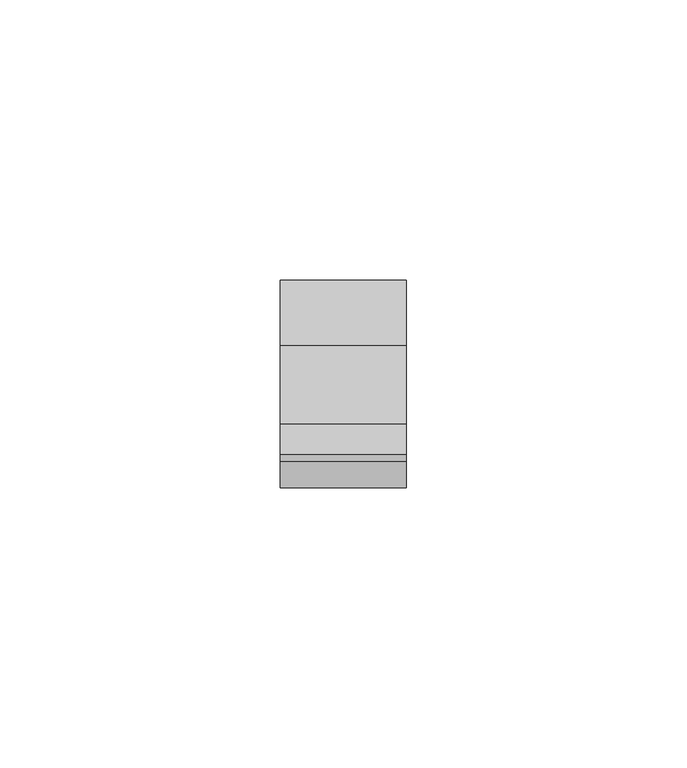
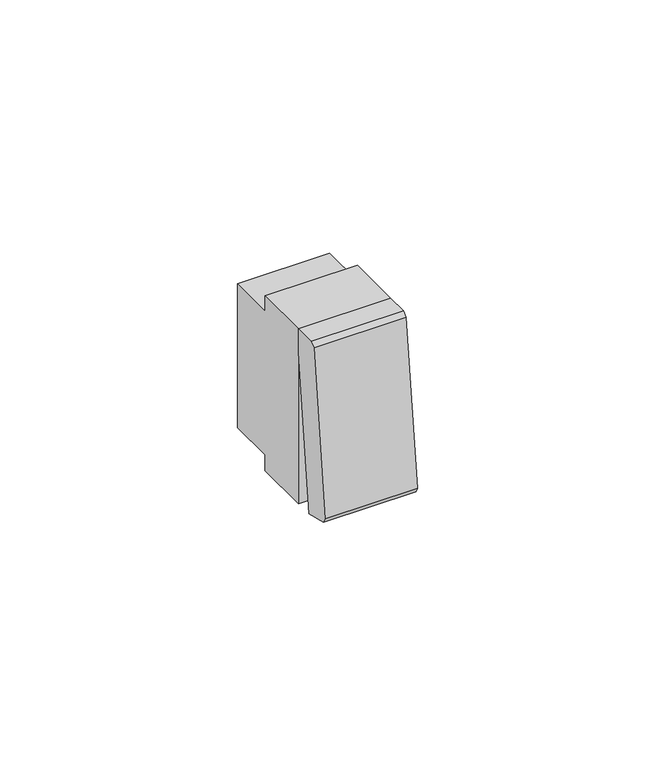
"""IFC4 building model written with IfcOpenShell, lengths in millimetres: proxy geometry."""

import ifcopenshell
import ifcopenshell.guid

model = None  # the IFC model being written
_history = None  # IfcOwnerHistory: only IFC2X3 demands one
_inside = {}  # id of a spatial element -> (the spatial element, [elements in it])
_under = {}  # id of a project, library or spatial element -> (it, [spatial elements below it])
_declared = {}  # id of a project -> (the project, [libraries it declares])
_typed = {}  # id of a type object -> (the type object, [elements of that type])
_made_of = {}  # id of a material, layer set ... -> (it, [elements and type objects made of it])


def new_model(schema):
    """Start an empty IFC model of exactly this schema.

    Asked for "IFC4X3", IfcOpenShell would pick the latest addendum, in which some entities
    have other attributes; the version numbers below select the first issue.
    IFC2X3 requires an IfcOwnerHistory on every rooted entity: one is made here for all.
    """
    global model, _history
    if schema == "IFC4X3":
        model = ifcopenshell.file(schema_version=(4, 3, 0, 0))
    else:
        model = ifcopenshell.file(schema=schema)
    _inside.clear()
    _under.clear()
    _declared.clear()
    _typed.clear()
    _made_of.clear()
    _history = None
    if model.schema == "IFC2X3":
        org = make("IfcOrganization", Name="unknown")
        user = make(
            "IfcPersonAndOrganization",
            ThePerson=make("IfcPerson", FamilyName="unknown"),
            TheOrganization=org,
        )
        app = make(
            "IfcApplication",
            ApplicationDeveloper=org,
            Version="unknown",
            ApplicationFullName="unknown",
            ApplicationIdentifier="unknown",
        )
        _history = make(
            "IfcOwnerHistory",
            OwningUser=user,
            OwningApplication=app,
            ChangeAction="ADDED",
            CreationDate=0,
        )
    return model


def make(cls, **values):
    """One entity of the class cls with the attributes given. An attribute that is None is left unset."""
    return model.create_entity(
        cls, **{name: value for name, value in values.items() if value is not None}
    )


def rooted(cls, **values):
    """An entity with a GlobalId (a new one), such as an element, a storey or a relation."""
    return make(cls, GlobalId=ifcopenshell.guid.new(), OwnerHistory=_history, **values)


def si_unit(unit_type, name, prefix=None):
    """IfcSIUnit, for example si_unit("LENGTHUNIT", "METRE", prefix="MILLI")."""
    return make("IfcSIUnit", UnitType=unit_type, Prefix=prefix, Name=name)


def assignment(units):
    """IfcUnitAssignment: the units of a project."""
    return None if units is None else make("IfcUnitAssignment", Units=units)


def point(xyz):
    """IfcCartesianPoint."""
    return None if xyz is None else make("IfcCartesianPoint", Coordinates=xyz)


def direction(xyz):
    """IfcDirection."""
    return None if xyz is None else make("IfcDirection", DirectionRatios=xyz)


def frame(location, z_axis=None, x_axis=None):
    """IfcAxis2Placement3D, a coordinate frame: its origin and axes. An axis left out is left unset."""
    return make(
        "IfcAxis2Placement3D",
        Location=point(location),
        Axis=direction(z_axis),
        RefDirection=direction(x_axis),
    )


def origin():
    """The frame at (0, 0, 0) with its axes left unset."""
    return frame((0.0, 0.0, 0.0))


def place(relative_to, where):
    """IfcLocalPlacement: puts the frame where relative to a parent placement (None: the world)."""
    return make(
        "IfcLocalPlacement", PlacementRelTo=relative_to, RelativePlacement=where
    )


def context(
    kind, dimensions, precision=None, world=None, true_north=None, identifier=None
):
    """IfcGeometricRepresentationContext, for example the 3D "Model" context."""
    return make(
        "IfcGeometricRepresentationContext",
        ContextIdentifier=identifier,
        ContextType=kind,
        CoordinateSpaceDimension=dimensions,
        Precision=precision,
        WorldCoordinateSystem=world,
        TrueNorth=true_north,
    )


def project(units=None, contexts=None):
    """IfcProject with its units and contexts."""
    return rooted(
        "IfcProject",
        Name="project",
        RepresentationContexts=contexts,
        UnitsInContext=assignment(units),
    )


def spatial(cls, under=None, at=None, **own):
    """A site, building, storey or space (cls), placed at a placement, below another one or the project."""
    s = rooted(cls, ObjectPlacement=at, **own)
    if under is not None:
        _under.setdefault(under.id(), (under, []))[1].append(s)
    return s


def polyline(points):
    """IfcPolyline through the points."""
    return make("IfcPolyline", Points=[point(p) for p in points])


def outline(outer, holes=None, kind="AREA"):
    """IfcArbitraryClosedProfileDef: a profile drawn as a closed curve; with holes, ...WithVoids."""
    if holes is None:
        return make("IfcArbitraryClosedProfileDef", ProfileType=kind, OuterCurve=outer)
    return make(
        "IfcArbitraryProfileDefWithVoids",
        ProfileType=kind,
        OuterCurve=outer,
        InnerCurves=holes,
    )


def extrude(swept, where, along, depth):
    """IfcExtrudedAreaSolid: the profile swept, set in the frame where, extruded along a direction by depth."""
    return make(
        "IfcExtrudedAreaSolid",
        SweptArea=swept,
        Position=where,
        ExtrudedDirection=direction(along),
        Depth=depth,
    )


def shape(context_of_items, identifier, shape_type, items):
    """IfcShapeRepresentation: the items that make up one representation, for example the "Body"."""
    return make(
        "IfcShapeRepresentation",
        ContextOfItems=context_of_items,
        RepresentationIdentifier=identifier,
        RepresentationType=shape_type,
        Items=items,
    )


def source(mapping_origin, context_of_items, identifier, shape_type, items):
    """IfcRepresentationMap: a shape defined once, which mapped items show again and again."""
    return make(
        "IfcRepresentationMap",
        MappingOrigin=mapping_origin,
        MappedRepresentation=shape(context_of_items, identifier, shape_type, items),
    )


def transform(
    local_origin,
    x_axis=None,
    y_axis=None,
    z_axis=None,
    scale=None,
    scale2=None,
    scale3=None,
    uniform=True,
):
    """IfcCartesianTransformationOperator3D, or its non-uniform kind. x_axis, y_axis, z_axis: its Axis1, 2, 3."""
    if uniform:
        return make(
            "IfcCartesianTransformationOperator3D",
            Axis1=direction(x_axis),
            Axis2=direction(y_axis),
            LocalOrigin=point(local_origin),
            Scale=scale,
            Axis3=direction(z_axis),
        )
    return make(
        "IfcCartesianTransformationOperator3DnonUniform",
        Axis1=direction(x_axis),
        Axis2=direction(y_axis),
        LocalOrigin=point(local_origin),
        Scale=scale,
        Axis3=direction(z_axis),
        Scale2=scale2,
        Scale3=scale3,
    )


def mapped(mapping_source, mapping_target):
    """IfcMappedItem: shows the shape of a source again, moved by a transform."""
    return make(
        "IfcMappedItem", MappingSource=mapping_source, MappingTarget=mapping_target
    )


def made_of(thing, what):
    """Note that an element or type object is made of a material, layer set ...; save() writes the relation."""
    if what is not None:
        _made_of.setdefault(what.id(), (what, []))[1].append(thing)
    return thing


def element(
    cls,
    number,
    at=None,
    inside=None,
    cuts=None,
    type_object=None,
    material=None,
    context=None,
    identifier="Body",
    shape_type=None,
    held_by="IfcProductDefinitionShape",
    body=None,
    shapes=None,
    **own,
):
    """One element of the class cls, such as IfcWall. Its Tag is "e" and its number.

    at: its placement. inside: the storey or other place that contains it. cuts: it is an
    opening in that element (IfcRelVoidsElement). A single representation is given by context,
    identifier, shape_type and body (its items); several are given by shapes. held_by: the class
    of the entity that holds the representations. save() writes the other relations.
    """
    e = rooted(cls, Tag="e%d" % number, ObjectPlacement=at, **own)
    if body is not None:
        shapes = [shape(context, identifier, shape_type, body)]
    if shapes is not None:
        e.Representation = make(held_by, Representations=shapes)
    if inside is not None:
        _inside.setdefault(inside.id(), (inside, []))[1].append(e)
    if cuts is not None:
        rooted(
            "IfcRelVoidsElement", RelatingBuildingElement=cuts, RelatedOpeningElement=e
        )
    if type_object is not None:
        _typed.setdefault(type_object.id(), (type_object, []))[1].append(e)
    return made_of(e, material)


def aggregate(whole, parts):
    """IfcRelAggregates: a whole, such as a stair, and the parts it consists of."""
    return rooted("IfcRelAggregates", RelatingObject=whole, RelatedObjects=parts)


def save(model, path):
    """Write the relations noted so far, then the file.

    IfcRelAggregates (storeys below a building ...), IfcRelContainedInSpatialStructure (elements
    in a storey), IfcRelDefinesByType, IfcRelAssociatesMaterial and IfcRelDeclares: one each for
    every whole, place, type object, material and project.
    """
    for whole, parts in _under.values():
        aggregate(whole, parts)
    for where, things in _inside.values():
        rooted(
            "IfcRelContainedInSpatialStructure",
            RelatedElements=things,
            RelatingStructure=where,
        )
    for kind, things in _typed.values():
        rooted("IfcRelDefinesByType", RelatedObjects=things, RelatingType=kind)
    for what, things in _made_of.values():
        rooted("IfcRelAssociatesMaterial", RelatedObjects=things, RelatingMaterial=what)
    for by, libraries in _declared.values():
        rooted("IfcRelDeclares", RelatingContext=by, RelatedDefinitions=libraries)
    model.write(path)


def electrical_fixtures_9882437b(model_context):
    return source(origin(), model_context, "Body", "SweptSolid", [
        extrude(outline(polyline([(-45.3066991, -20.8423049), (-46.0, -19.4477008), (-41.2925573, 21.5818457), (-40.0527044, 22.45), (-34.7, 22.45), (-34.7, 16.4732313), (-39.0907297, -22.45), (-45.3066991, -20.8423049)])), frame((0.0, 0.0, 0.0), z_axis=(1.0, 0.0, 0.0), x_axis=(0.0, 1.0, 0.0)), (0.0, 0.0, 1.0), 22.4),
        extrude(outline(polyline([(-20.7, 22.45), (-20.7, 18.45), (-9.1, 18.45), (-9.1, -18.45), (-20.7, -18.45), (-20.7, -22.45), (-34.7, -22.45), (-34.7, 22.45), (-20.7, 22.45)])), frame((0.0, 0.0, 0.0), z_axis=(1.0, 0.0, 0.0), x_axis=(0.0, 1.0, 0.0)), (0.0, 0.0, 1.0), 22.4),
    ])


if __name__ == "__main__":
    model = new_model("IFC4")
    model_context = context("Model", 3, world=origin())
    ifc_project = project(units=[si_unit("LENGTHUNIT", "METRE", prefix="MILLI")], contexts=[model_context])
    site = spatial("IfcSite", under=ifc_project)
    building = spatial("IfcBuilding", under=site)
    placement = place(None, origin())
    electrical_fixtures_shape = electrical_fixtures_9882437b(model_context)
    element("IfcBuildingElementProxy", 1, Name="Electrical Fixtures", at=placement, inside=building, context=model_context, shape_type="MappedRepresentation", body=[
        mapped(electrical_fixtures_shape, transform((0.0, 0.0, 0.0), x_axis=(1.0, 0.0, 0.0), y_axis=(0.0, 1.0, 0.0), z_axis=(0.0, 0.0, 1.0))),
    ])
    save(model, "model.ifc")
